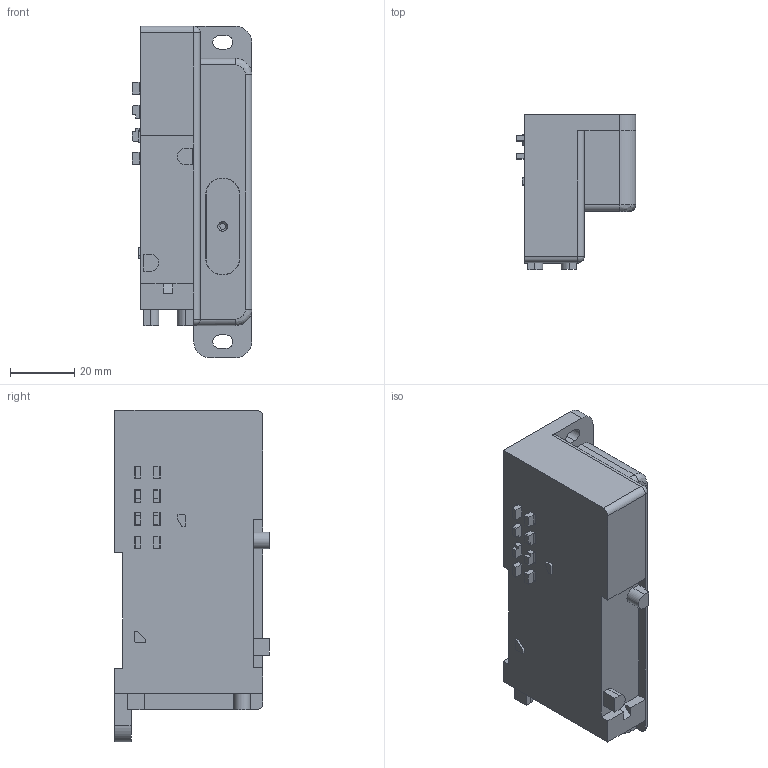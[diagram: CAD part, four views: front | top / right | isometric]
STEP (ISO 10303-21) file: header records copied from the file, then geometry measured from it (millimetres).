
FILE_DESCRIPTION( (''), '2;1');
FILE_NAME ('CVICAD02.18556.F10ZX-RN_7266.stp','2020-09-01T14:17:46',(''),(''),'spGate 12.6.6','','');
FILE_SCHEMA (('AUTOMOTIVE_DESIGN'));
Length unit declared in the file: millimetre
Products named in the file (3): Assembly; Y211546_F10配管ブロックR(内パイ)_20200204; Y029261_キャップ(DINねじ穴用)_20190809
Assembly tree (2 placements, depth 2):
  Assembly
    Y211546_F10配管ブロックR(内パイ)_20200204
    Y029261_キャップ(DINねじ穴用)_20190809
Bounding box: 37.1 x 48.1 x 103 mm (x, y, z)
Volume: 575.1 mm3; surface area: 19702.1 mm2
Topology: 1 solids, 2 shells, 241 faces, 610 edges, 398 vertices
Faces by surface type: plane 171, cylinder 60, bspline 8, sphere 2
Entity records: 12293 total; most frequent: CARTESIAN_POINT 1399, ORIENTED_EDGE 1213, DIRECTION 1200, COLOUR_RGB 851, PRESENTATION_STYLE_ASSIGNMENT 851, STYLED_ITEM 851, EDGE_CURVE 608, DRAUGHTING_PRE_DEFINED_CURVE_FONT 608
